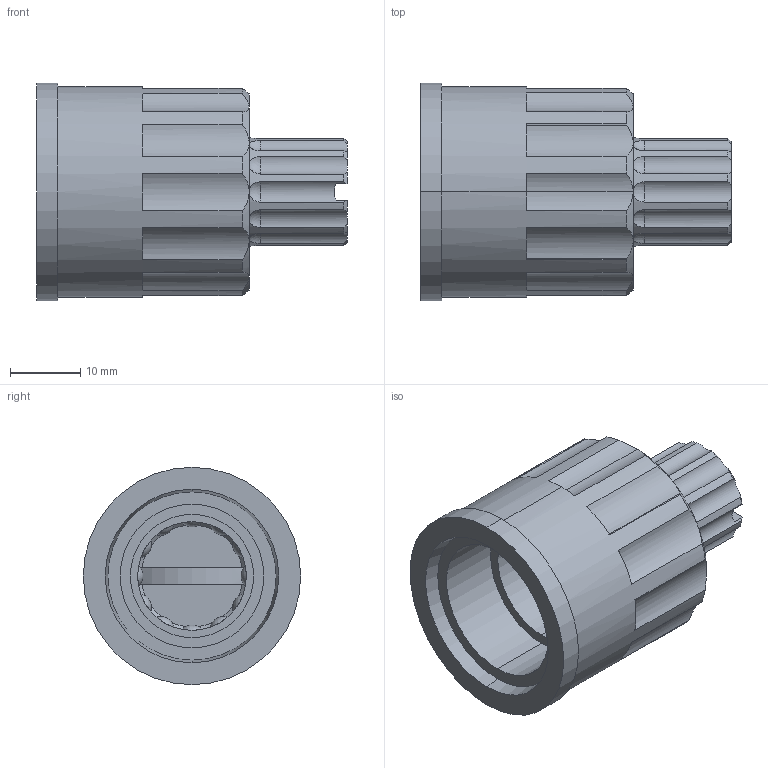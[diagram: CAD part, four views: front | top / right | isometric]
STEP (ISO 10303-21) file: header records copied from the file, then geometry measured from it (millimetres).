
FILE_DESCRIPTION (( 'STEP AP203' ), '1' );
FILE_NAME ('HS1.step', '2013-07-08T11:09:47', ( 'Wandfluh AG' ), ( 'Wandfluh AG' ), 'SwSTEP 2.0', 'SolidWorks 2012', '' );
FILE_SCHEMA (( 'CONFIG_CONTROL_DESIGN' ));
Length unit declared in the file: millimetre
Products named in the file (1): HS1
Bounding box: 44.3 x 31 x 31 mm (x, y, z)
Surface area: 6774.2 mm2 (no closed solid volume)
Topology: 0 solids, 2 shells, 217 faces, 607 edges, 399 vertices
Faces by surface type: plane 122, cylinder 41, cone 26, bspline 16, sphere 12
Entity records: 8214 total; most frequent: CARTESIAN_POINT 2760, ORIENTED_EDGE 1172, DIRECTION 1022, EDGE_CURVE 595, VERTEX_POINT 393, VECTOR 364, LINE 364, AXIS2_PLACEMENT_3D 329
